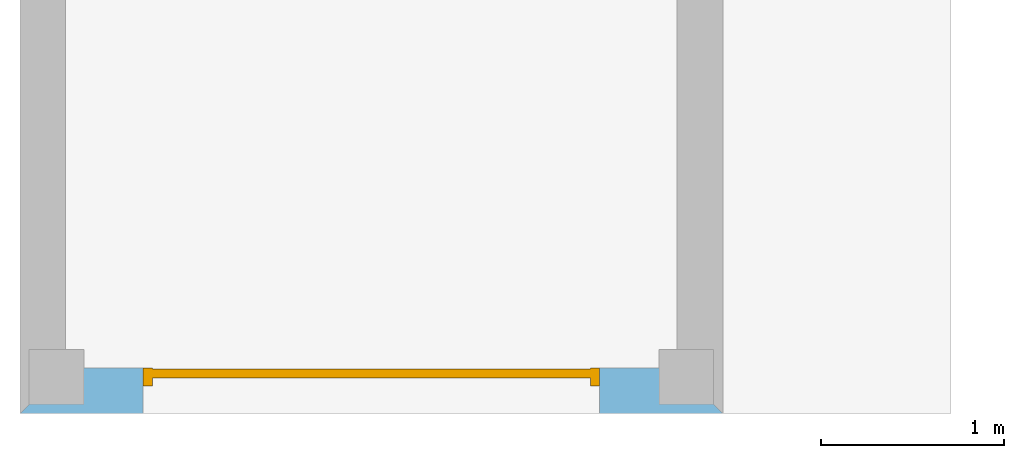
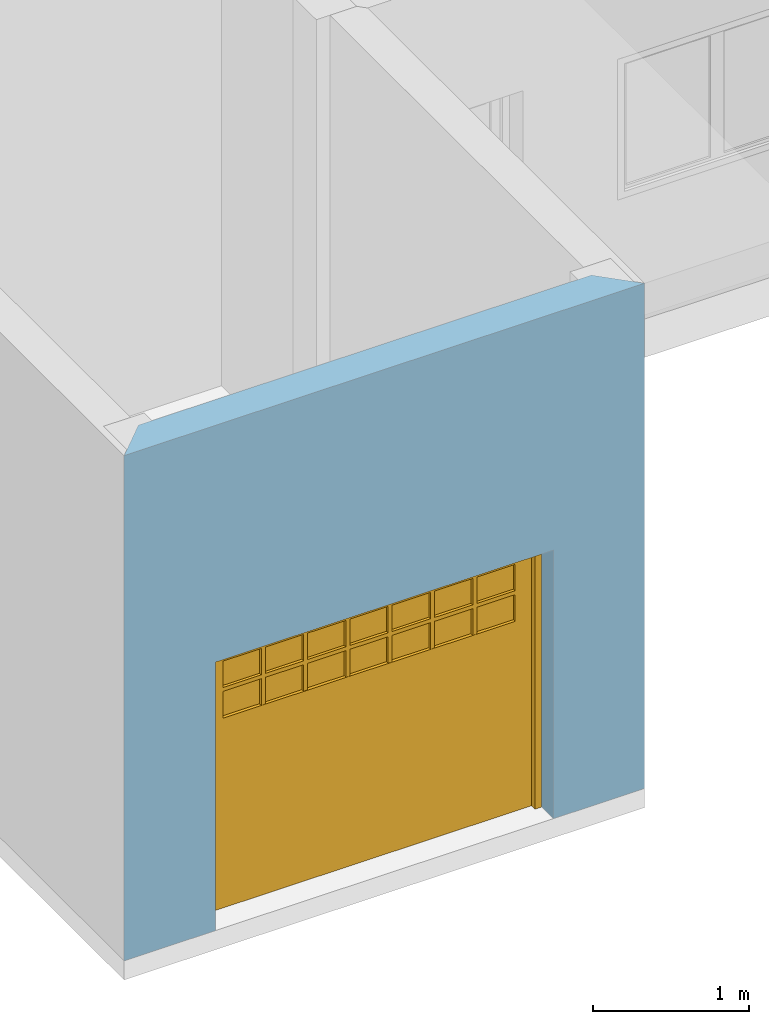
# One storey, part 3 of 5: 1 door, 1 opening, plus 1 element that does not belong to this part.
"""IFC2X3 building model written with IfcOpenShell, lengths in millimetres."""

import ifcopenshell
import ifcopenshell.guid

model = None  # the IFC model being written
_history = None  # IfcOwnerHistory: only IFC2X3 demands one
_inside = {}  # id of a spatial element -> (the spatial element, [elements in it])
_under = {}  # id of a project, library or spatial element -> (it, [spatial elements below it])
_declared = {}  # id of a project -> (the project, [libraries it declares])
_typed = {}  # id of a type object -> (the type object, [elements of that type])
_made_of = {}  # id of a material, layer set ... -> (it, [elements and type objects made of it])


def new_model(schema):
    """Start an empty IFC model of exactly this schema.

    Asked for "IFC4X3", IfcOpenShell would pick the latest addendum, in which some entities
    have other attributes; the version numbers below select the first issue.
    IFC2X3 requires an IfcOwnerHistory on every rooted entity: one is made here for all.
    """
    global model, _history
    if schema == "IFC4X3":
        model = ifcopenshell.file(schema_version=(4, 3, 0, 0))
    else:
        model = ifcopenshell.file(schema=schema)
    _inside.clear()
    _under.clear()
    _declared.clear()
    _typed.clear()
    _made_of.clear()
    _history = None
    if model.schema == "IFC2X3":
        org = make("IfcOrganization", Name="unknown")
        user = make(
            "IfcPersonAndOrganization",
            ThePerson=make("IfcPerson", FamilyName="unknown"),
            TheOrganization=org,
        )
        app = make(
            "IfcApplication",
            ApplicationDeveloper=org,
            Version="unknown",
            ApplicationFullName="unknown",
            ApplicationIdentifier="unknown",
        )
        _history = make(
            "IfcOwnerHistory",
            OwningUser=user,
            OwningApplication=app,
            ChangeAction="ADDED",
            CreationDate=0,
        )
    return model


def make(cls, **values):
    """One entity of the class cls with the attributes given. An attribute that is None is left unset."""
    return model.create_entity(
        cls, **{name: value for name, value in values.items() if value is not None}
    )


def entity(cls, *values):
    """Any entity or typed value of the class cls, its attributes in the order of the schema. None: left unset."""
    e = model.create_entity(cls)
    for i, value in enumerate(values):
        if value is not None:
            e[i] = value
    return e


def rooted(cls, **values):
    """An entity with a GlobalId (a new one), such as an element, a storey or a relation."""
    return make(cls, GlobalId=ifcopenshell.guid.new(), OwnerHistory=_history, **values)


def si_unit(unit_type, name, prefix=None):
    """IfcSIUnit, for example si_unit("LENGTHUNIT", "METRE", prefix="MILLI")."""
    return make("IfcSIUnit", UnitType=unit_type, Prefix=prefix, Name=name)


def converted_unit(unit_type, name, factor, base, dimensions=None, offset=None):
    """IfcConversionBasedUnit, such as the inch: factor (a typed value) times the base unit."""
    return make(
        "IfcConversionBasedUnit"
        if offset is None
        else "IfcConversionBasedUnitWithOffset",
        ConversionOffset=offset,
        Dimensions=None
        if dimensions is None
        else entity("IfcDimensionalExponents", *dimensions),
        UnitType=unit_type,
        Name=name,
        ConversionFactor=make(
            "IfcMeasureWithUnit", ValueComponent=factor, UnitComponent=base
        ),
    )


def assignment(units):
    """IfcUnitAssignment: the units of a project."""
    return None if units is None else make("IfcUnitAssignment", Units=units)


def point(xyz):
    """IfcCartesianPoint."""
    return None if xyz is None else make("IfcCartesianPoint", Coordinates=xyz)


def direction(xyz):
    """IfcDirection."""
    return None if xyz is None else make("IfcDirection", DirectionRatios=xyz)


def frame(location, z_axis=None, x_axis=None):
    """IfcAxis2Placement3D, a coordinate frame: its origin and axes. An axis left out is left unset."""
    return make(
        "IfcAxis2Placement3D",
        Location=point(location),
        Axis=direction(z_axis),
        RefDirection=direction(x_axis),
    )


def frame_2d(location, x_axis=None):
    """IfcAxis2Placement2D, a coordinate frame in the plane: its origin and x axis."""
    return make(
        "IfcAxis2Placement2D", Location=point(location), RefDirection=direction(x_axis)
    )


def origin_with_axes():
    """The frame at (0, 0, 0) with the z axis (0, 0, 1) and the x axis (1, 0, 0) written out."""
    return frame((0.0, 0.0, 0.0), z_axis=(0.0, 0.0, 1.0), x_axis=(1.0, 0.0, 0.0))


def place(relative_to, where):
    """IfcLocalPlacement: puts the frame where relative to a parent placement (None: the world)."""
    return make(
        "IfcLocalPlacement", PlacementRelTo=relative_to, RelativePlacement=where
    )


def context(
    kind, dimensions, precision=None, world=None, true_north=None, identifier=None
):
    """IfcGeometricRepresentationContext, for example the 3D "Model" context."""
    return make(
        "IfcGeometricRepresentationContext",
        ContextIdentifier=identifier,
        ContextType=kind,
        CoordinateSpaceDimension=dimensions,
        Precision=precision,
        WorldCoordinateSystem=world,
        TrueNorth=true_north,
    )


def project(units=None, contexts=None):
    """IfcProject with its units and contexts."""
    return rooted(
        "IfcProject",
        Name="project",
        RepresentationContexts=contexts,
        UnitsInContext=assignment(units),
    )


def spatial(cls, under=None, at=None, **own):
    """A site, building, storey or space (cls), placed at a placement, below another one or the project."""
    s = rooted(cls, ObjectPlacement=at, **own)
    if under is not None:
        _under.setdefault(under.id(), (under, []))[1].append(s)
    return s


def polyline(points):
    """IfcPolyline through the points."""
    return make("IfcPolyline", Points=[point(p) for p in points])


def profile(cls, at=None, kind="AREA", **sizes):
    """A parametric profile (cls). Its sizes go by their IFC names, for example OverallWidth=200.0."""
    return make(cls, ProfileType=kind, Position=at, **sizes)


def rectangle(**sizes):
    """IfcRectangleProfileDef."""
    return profile("IfcRectangleProfileDef", **sizes)


def outline(outer, holes=None, kind="AREA"):
    """IfcArbitraryClosedProfileDef: a profile drawn as a closed curve; with holes, ...WithVoids."""
    if holes is None:
        return make("IfcArbitraryClosedProfileDef", ProfileType=kind, OuterCurve=outer)
    return make(
        "IfcArbitraryProfileDefWithVoids",
        ProfileType=kind,
        OuterCurve=outer,
        InnerCurves=holes,
    )


def extrude(swept, where, along, depth):
    """IfcExtrudedAreaSolid: the profile swept, set in the frame where, extruded along a direction by depth."""
    return make(
        "IfcExtrudedAreaSolid",
        SweptArea=swept,
        Position=where,
        ExtrudedDirection=direction(along),
        Depth=depth,
    )


def faces_of(points, faces, orient=None, outer=None):
    """IfcFace entities. A face is a list of loops; a loop is a list of indices into points, from 0.

    orient and outer hold one flag for each loop. By default every Orientation is true, the
    first loop of a face is its IfcFaceOuterBound and the others are IfcFaceBound.
    """
    made = []
    for i, loops in enumerate(faces):
        bounds = []
        for j, loop in enumerate(loops):
            is_outer = j == 0 if outer is None else outer[i][j]
            bounds.append(
                make(
                    "IfcFaceOuterBound" if is_outer else "IfcFaceBound",
                    Bound=make("IfcPolyLoop", Polygon=[points[k] for k in loop]),
                    Orientation=True if orient is None else orient[i][j],
                )
            )
        made.append(make("IfcFace", Bounds=bounds))
    return made


def faceted_brep(points, faces, orient=None, outer=None, voids=None):
    """IfcFacetedBrep: a solid bounded by flat faces; with voids (closed shells), ...WithVoids."""
    shared = [point(p) for p in points]
    hull = make("IfcClosedShell", CfsFaces=faces_of(shared, faces, orient, outer))
    if voids is None:
        return make("IfcFacetedBrep", Outer=hull)
    return make(
        "IfcFacetedBrepWithVoids",
        Outer=hull,
        Voids=[
            make(cls, CfsFaces=faces_of(shared, fs, o, b)) for cls, fs, o, b in voids
        ],
    )


def shape(context_of_items, identifier, shape_type, items):
    """IfcShapeRepresentation: the items that make up one representation, for example the "Body"."""
    return make(
        "IfcShapeRepresentation",
        ContextOfItems=context_of_items,
        RepresentationIdentifier=identifier,
        RepresentationType=shape_type,
        Items=items,
    )


def material(Name=None, Category=None):
    """IfcMaterial."""
    return make("IfcMaterial", Name=Name, Category=Category)


def layer(
    of_material, thickness, ventilated=None, Name=None, Category=None, Priority=None
):
    """IfcMaterialLayer: one layer of a wall or slab, of a material (None: an air gap)."""
    return make(
        "IfcMaterialLayer",
        Material=of_material,
        LayerThickness=thickness,
        IsVentilated=ventilated,
        Name=Name,
        Category=Category,
        Priority=Priority,
    )


def layer_set(layers, Name=None):
    """IfcMaterialLayerSet."""
    return make("IfcMaterialLayerSet", MaterialLayers=layers, LayerSetName=Name)


def layer_usage(for_layer_set, set_direction, sense, offset, extent=None):
    """IfcMaterialLayerSetUsage: how a layer set lies in its element."""
    return make(
        "IfcMaterialLayerSetUsage",
        ForLayerSet=for_layer_set,
        LayerSetDirection=set_direction,
        DirectionSense=sense,
        OffsetFromReferenceLine=offset,
        ReferenceExtent=extent,
    )


def made_of(thing, what):
    """Note that an element or type object is made of a material, layer set ...; save() writes the relation."""
    if what is not None:
        _made_of.setdefault(what.id(), (what, []))[1].append(thing)
    return thing


def type_object(cls, material=None, **own):
    """A type object (cls), such as IfcWallType, which elements share."""
    return made_of(rooted(cls, **own), material)


def element(
    cls,
    number,
    at=None,
    inside=None,
    cuts=None,
    type_object=None,
    material=None,
    context=None,
    identifier="Body",
    shape_type=None,
    held_by="IfcProductDefinitionShape",
    body=None,
    shapes=None,
    **own,
):
    """One element of the class cls, such as IfcWall. Its Tag is "e" and its number.

    at: its placement. inside: the storey or other place that contains it. cuts: it is an
    opening in that element (IfcRelVoidsElement). A single representation is given by context,
    identifier, shape_type and body (its items); several are given by shapes. held_by: the class
    of the entity that holds the representations. save() writes the other relations.
    """
    e = rooted(cls, Tag="e%d" % number, ObjectPlacement=at, **own)
    if body is not None:
        shapes = [shape(context, identifier, shape_type, body)]
    if shapes is not None:
        e.Representation = make(held_by, Representations=shapes)
    if inside is not None:
        _inside.setdefault(inside.id(), (inside, []))[1].append(e)
    if cuts is not None:
        rooted(
            "IfcRelVoidsElement", RelatingBuildingElement=cuts, RelatedOpeningElement=e
        )
    if type_object is not None:
        _typed.setdefault(type_object.id(), (type_object, []))[1].append(e)
    return made_of(e, material)


def fill(opening, filler):
    """IfcRelFillsElement: the door or window that sits in an opening."""
    return rooted(
        "IfcRelFillsElement",
        RelatingOpeningElement=opening,
        RelatedBuildingElement=filler,
    )


def aggregate(whole, parts):
    """IfcRelAggregates: a whole, such as a stair, and the parts it consists of."""
    return rooted("IfcRelAggregates", RelatingObject=whole, RelatedObjects=parts)


def save(model, path):
    """Write the relations noted so far, then the file.

    IfcRelAggregates (storeys below a building ...), IfcRelContainedInSpatialStructure (elements
    in a storey), IfcRelDefinesByType, IfcRelAssociatesMaterial and IfcRelDeclares: one each for
    every whole, place, type object, material and project.
    """
    for whole, parts in _under.values():
        aggregate(whole, parts)
    for where, things in _inside.values():
        rooted(
            "IfcRelContainedInSpatialStructure",
            RelatedElements=things,
            RelatingStructure=where,
        )
    for kind, things in _typed.values():
        rooted("IfcRelDefinesByType", RelatedObjects=things, RelatingType=kind)
    for what, things in _made_of.values():
        rooted("IfcRelAssociatesMaterial", RelatedObjects=things, RelatingMaterial=what)
    for by, libraries in _declared.values():
        rooted("IfcRelDeclares", RelatingContext=by, RelatedDefinitions=libraries)
    model.write(path)


model = new_model("IFC2X3")

# Units and contexts
context_of_model = context(None, 3, precision=1e-05, world=origin_with_axes(), true_north=direction((6.123234e-17, 1.0)))
plan_context = context("Plan", 3, precision=1e-05, world=origin_with_axes(), true_north=direction((6.123234e-17, 1.0)))
model_context = context("Model", 3, precision=1e-05, world=origin_with_axes(), true_north=direction((6.123234e-17, 1.0)))
ifc_project = project(units=[si_unit("LENGTHUNIT", "METRE", prefix="MILLI"), si_unit("AREAUNIT", "SQUARE_METRE"), si_unit("VOLUMEUNIT", "CUBIC_METRE"), converted_unit("PLANEANGLEUNIT", "DEGREE", entity("IfcPlaneAngleMeasure", 0.017453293), si_unit("PLANEANGLEUNIT", "RADIAN"), dimensions=[0, 0, 0, 0, 0, 0, 0]), si_unit("SOLIDANGLEUNIT", "STERADIAN"), si_unit("MASSUNIT", "GRAM"), si_unit("TIMEUNIT", "SECOND"), si_unit("THERMODYNAMICTEMPERATUREUNIT", "DEGREE_CELSIUS"), si_unit("LUMINOUSINTENSITYUNIT", "LUMEN")], contexts=[context_of_model, plan_context, model_context])

# Site, building, storey
site_placement = place(None, origin_with_axes())
site = spatial("IfcSite", under=ifc_project, at=site_placement, Name="Por defecto Sitio", CompositionType="ELEMENT")
building_placement = place(site_placement, origin_with_axes())
building = spatial("IfcBuilding", under=site, at=building_placement, Name="Por defecto Edificio", CompositionType="ELEMENT")
storey_placement = place(building_placement, origin_with_axes())
storey = spatial("IfcBuildingStorey", under=building, at=storey_placement, Name="Planta Baja", CompositionType="ELEMENT", Elevation=0.0)

# Wall, opening, door
ifc_material = material(Name="Bloque mampostería")
ifc_layer = layer(ifc_material, 250.0, ventilated="UNKNOWN")
ifc_layer_set = layer_set([ifc_layer], Name="Bloque mampostería 250")
ifc_layer_usage = layer_usage(ifc_layer_set, "AXIS2", "NEGATIVE", 0.0)
wall_type = type_object("IfcWallType", Name="Bloque mampostería 250", PredefinedType="NOTDEFINED", material=ifc_layer_set)
wall_placement = place(storey_placement, frame((3650.0, -200.0, -800.0), z_axis=(0.0, 0.0, 1.0), x_axis=(-1.0, 0.0, 0.0)))
wall = element("IfcWallStandardCase", 1, at=wall_placement, inside=storey, type_object=wall_type, material=ifc_layer_usage, Name="Muro-003", context=model_context, shape_type="SweptSolid", body=[
    extrude(outline(polyline([(250.0, -250.0), (3600.0, -250.0), (3850.0, 0.0), (0.0, 0.0), (250.0, -250.0)])), origin_with_axes(), (0.0, 0.0, 1.0), 3950.0),
])
opening_placement = place(wall_placement, frame((1925.0, -250.0, 0.0), z_axis=(0.0, 0.0, 1.0), x_axis=(1.0, 0.0, 0.0)))
opening = element("IfcOpeningElement", 2, at=opening_placement, cuts=wall, ObjectType="Opening", context=model_context, shape_type="SweptSolid", body=[
    extrude(rectangle(XDim=2500.0, YDim=2100.0, at=frame_2d((0.0, 1050.0), x_axis=(-1.0, 0.0))), frame((0.0, 0.0, 0.0), z_axis=(0.0, 1.0, 0.0), x_axis=(-1.0, 0.0, 0.0)), (0.0, 0.0, 1.0), 250.0),
])
door_style = type_object("IfcDoorStyle", Name="P1 Garaje 2 13", ConstructionType="NOTDEFINED", OperationType="ROLLINGUP", ParameterTakesPrecedence=False, Sizeable=False)
door_placement = place(opening_placement, frame((1250.0, 100.0, 0.0), z_axis=(0.0, 0.0, 1.0), x_axis=(-1.0, 0.0, 0.0)))
door = element("IfcDoor", 3, at=door_placement, inside=storey, type_object=door_style, Name="P01", OverallHeight=2100.0, OverallWidth=2500.0, context=model_context, shape_type="Brep", body=[
    faceted_brep([(50.0, 100.0, 0.0), (50.0, 100.0, 2050.0), (50.0, 3.9551695e-13, 2050.0), (50.0, 5.2041704e-13, 0.0), (5.5511151e-14, 100.0, 0.0), (5.5511151e-14, 100.0, 2050.0), (5.5511151e-14, 4.0939474e-13, 2050.0), (0.0, 0.0, 0.0)], [[[0, 1, 2, 3]], [[0, 4, 5, 1]], [[1, 5, 6, 2]], [[3, 2, 6, 7]], [[4, 0, 3, 7]], [[5, 4, 7, 6]]]),
    faceted_brep([(2500.0, 100.0, 0.0), (2500.0, 100.0, 2050.0), (2500.0, -2.0122792e-13, 2050.0), (2500.0, -7.6327833e-14, 0.0), (2450.0, 100.0, 0.0), (2450.0, 100.0, 2050.0), (2450.0, -1.8735014e-13, 2050.0), (2450.0, -6.2450045e-14, 0.0)], [[[0, 1, 2, 3]], [[0, 4, 5, 1]], [[1, 5, 6, 2]], [[3, 2, 6, 7]], [[4, 0, 3, 7]], [[5, 4, 7, 6]]]),
    faceted_brep([(5.5511151e-14, 100.0, 2100.0), (5.5511151e-14, 100.0, 2050.0), (5.5511151e-14, 4.0939474e-13, 2050.0), (5.5511151e-14, 4.0939474e-13, 2100.0), (2500.0, 100.0, 2100.0), (2500.0, 100.0, 2050.0), (2450.0, 100.0, 2050.0), (50.0, 100.0, 2050.0), (50.0, 3.9551695e-13, 2050.0), (2450.0, -1.8735014e-13, 2050.0), (2500.0, -2.0122792e-13, 2050.0), (2500.0, -2.0122792e-13, 2100.0)], [[[0, 1, 2, 3]], [[0, 4, 5, 6, 7, 1]], [[1, 7, 8, 2]], [[3, 2, 8, 9, 10, 11]], [[4, 0, 3, 11]], [[5, 4, 11, 10]], [[6, 5, 10, 9]], [[7, 6, 9, 8]]]),
    faceted_brep([(170.0, 94.5, 0.0), (170.0, 94.5, 1484.0), (170.0, 77.833333, 1484.0), (170.0, 77.833333, 0.0), (50.0, 94.5, 0.0), (50.0, 94.5, 1930.0), (170.0, 94.5, 1930.0), (170.0, 94.5, 1722.0), (170.0, 94.5, 1692.0), (170.0, 77.833333, 1692.0), (170.0, 77.833333, 1722.0), (170.0, 77.833333, 1930.0), (50.0, 77.833333, 1930.0), (50.0, 77.833333, 0.0)], [[[0, 1, 2, 3]], [[0, 4, 5, 6, 7, 8, 1]], [[1, 8, 9, 2]], [[3, 2, 9, 10, 11, 12, 13]], [[4, 0, 3, 13]], [[5, 4, 13, 12]], [[6, 5, 12, 11]], [[7, 6, 11, 10]], [[8, 7, 10, 9]]]),
    faceted_brep([(2450.0, 94.5, 0.0), (2450.0, 94.5, 1930.0), (2450.0, 77.833333, 1930.0), (2450.0, 77.833333, 0.0), (2330.0, 94.5, 0.0), (2330.0, 94.5, 1484.0), (2330.0, 94.5, 1692.0), (2330.0, 94.5, 1722.0), (2330.0, 94.5, 1930.0), (2330.0, 77.833333, 1930.0), (2330.0, 77.833333, 1722.0), (2330.0, 77.833333, 1692.0), (2330.0, 77.833333, 1484.0), (2330.0, 77.833333, 0.0)], [[[0, 1, 2, 3]], [[0, 4, 5, 6, 7, 8, 1]], [[1, 8, 9, 2]], [[3, 2, 9, 10, 11, 12, 13]], [[4, 0, 3, 13]], [[5, 4, 13, 12]], [[6, 5, 12, 11]], [[7, 6, 11, 10]], [[8, 7, 10, 9]]]),
    faceted_brep([(50.0, 94.5, 2050.0), (50.0, 94.5, 1930.0), (50.0, 77.833333, 1930.0), (50.0, 77.833333, 2050.0), (2450.0, 94.5, 2050.0), (2450.0, 94.5, 1930.0), (2330.0, 94.5, 1930.0), (2047.1429, 94.5, 1930.0), (2017.1429, 94.5, 1930.0), (1734.2857, 94.5, 1930.0), (1704.2857, 94.5, 1930.0), (1421.4286, 94.5, 1930.0), (1391.4286, 94.5, 1930.0), (1108.5714, 94.5, 1930.0), (1078.5714, 94.5, 1930.0), (795.71429, 94.5, 1930.0), (765.71429, 94.5, 1930.0), (482.85714, 94.5, 1930.0), (452.85714, 94.5, 1930.0), (170.0, 94.5, 1930.0), (170.0, 77.833333, 1930.0), (452.85714, 77.833333, 1930.0), (482.85714, 77.833333, 1930.0), (765.71429, 77.833333, 1930.0), (795.71429, 77.833333, 1930.0), (1078.5714, 77.833333, 1930.0), (1108.5714, 77.833333, 1930.0), (1391.4286, 77.833333, 1930.0), (1421.4286, 77.833333, 1930.0), (1704.2857, 77.833333, 1930.0), (1734.2857, 77.833333, 1930.0), (2017.1429, 77.833333, 1930.0), (2047.1429, 77.833333, 1930.0), (2330.0, 77.833333, 1930.0), (2450.0, 77.833333, 1930.0), (2450.0, 77.833333, 2050.0)], [[[0, 1, 2, 3]], [[0, 4, 5, 6, 7, 8, 9, 10, 11, 12, 13, 14, 15, 16, 17, 18, 19, 1]], [[1, 19, 20, 2]], [[3, 2, 20, 21, 22, 23, 24, 25, 26, 27, 28, 29, 30, 31, 32, 33, 34, 35]], [[4, 0, 3, 35]], [[5, 4, 35, 34]], [[6, 5, 34, 33]], [[7, 6, 33, 32]], [[8, 7, 32, 31]], [[9, 8, 31, 30]], [[10, 9, 30, 29]], [[11, 10, 29, 28]], [[12, 11, 28, 27]], [[13, 12, 27, 26]], [[14, 13, 26, 25]], [[15, 14, 25, 24]], [[16, 15, 24, 23]], [[17, 16, 23, 22]], [[18, 17, 22, 21]], [[19, 18, 21, 20]]]),
    faceted_brep([(2330.0, 94.5, 1384.0), (2330.0, 94.5, 1484.0), (2330.0, 77.833333, 1484.0), (2330.0, 77.833333, 1384.0), (170.0, 94.5, 1384.0), (170.0, 94.5, 1484.0), (452.85714, 94.5, 1484.0), (482.85714, 94.5, 1484.0), (765.71429, 94.5, 1484.0), (795.71429, 94.5, 1484.0), (1078.5714, 94.5, 1484.0), (1108.5714, 94.5, 1484.0), (1391.4286, 94.5, 1484.0), (1421.4286, 94.5, 1484.0), (1704.2857, 94.5, 1484.0), (1734.2857, 94.5, 1484.0), (2017.1429, 94.5, 1484.0), (2047.1429, 94.5, 1484.0), (2047.1429, 77.833333, 1484.0), (2017.1429, 77.833333, 1484.0), (1734.2857, 77.833333, 1484.0), (1704.2857, 77.833333, 1484.0), (1421.4286, 77.833333, 1484.0), (1391.4286, 77.833333, 1484.0), (1108.5714, 77.833333, 1484.0), (1078.5714, 77.833333, 1484.0), (795.71429, 77.833333, 1484.0), (765.71429, 77.833333, 1484.0), (482.85714, 77.833333, 1484.0), (452.85714, 77.833333, 1484.0), (170.0, 77.833333, 1484.0), (170.0, 77.833333, 1384.0)], [[[0, 1, 2, 3]], [[0, 4, 5, 6, 7, 8, 9, 10, 11, 12, 13, 14, 15, 16, 17, 1]], [[1, 17, 18, 2]], [[3, 2, 18, 19, 20, 21, 22, 23, 24, 25, 26, 27, 28, 29, 30, 31]], [[4, 0, 3, 31]], [[5, 4, 31, 30]], [[6, 5, 30, 29]], [[7, 6, 29, 28]], [[8, 7, 28, 27]], [[9, 8, 27, 26]], [[10, 9, 26, 25]], [[11, 10, 25, 24]], [[12, 11, 24, 23]], [[13, 12, 23, 22]], [[14, 13, 22, 21]], [[15, 14, 21, 20]], [[16, 15, 20, 19]], [[17, 16, 19, 18]]]),
    faceted_brep([(170.0, 94.5, 1692.0), (452.85714, 94.5, 1692.0), (452.85714, 46.5, 1692.0), (170.0, 46.5, 1692.0), (170.0, 94.5, 1722.0), (452.85714, 94.5, 1722.0), (482.85714, 94.5, 1722.0), (765.71429, 94.5, 1722.0), (795.71429, 94.5, 1722.0), (1078.5714, 94.5, 1722.0), (1108.5714, 94.5, 1722.0), (1391.4286, 94.5, 1722.0), (1421.4286, 94.5, 1722.0), (1704.2857, 94.5, 1722.0), (1734.2857, 94.5, 1722.0), (2017.1429, 94.5, 1722.0), (2047.1429, 94.5, 1722.0), (2330.0, 94.5, 1722.0), (2330.0, 94.5, 1692.0), (2047.1429, 94.5, 1692.0), (2017.1429, 94.5, 1692.0), (1734.2857, 94.5, 1692.0), (1704.2857, 94.5, 1692.0), (1421.4286, 94.5, 1692.0), (1391.4286, 94.5, 1692.0), (1108.5714, 94.5, 1692.0), (1078.5714, 94.5, 1692.0), (795.71429, 94.5, 1692.0), (765.71429, 94.5, 1692.0), (482.85714, 94.5, 1692.0), (482.85714, 46.5, 1692.0), (765.71429, 46.5, 1692.0), (795.71429, 46.5, 1692.0), (1078.5714, 46.5, 1692.0), (1108.5714, 46.5, 1692.0), (1391.4286, 46.5, 1692.0), (1421.4286, 46.5, 1692.0), (1704.2857, 46.5, 1692.0), (1734.2857, 46.5, 1692.0), (2017.1429, 46.5, 1692.0), (2047.1429, 46.5, 1692.0), (2330.0, 46.5, 1692.0), (2330.0, 46.5, 1722.0), (2047.1429, 46.5, 1722.0), (2017.1429, 46.5, 1722.0), (1734.2857, 46.5, 1722.0), (1704.2857, 46.5, 1722.0), (1421.4286, 46.5, 1722.0), (1391.4286, 46.5, 1722.0), (1108.5714, 46.5, 1722.0), (1078.5714, 46.5, 1722.0), (795.71429, 46.5, 1722.0), (765.71429, 46.5, 1722.0), (482.85714, 46.5, 1722.0), (452.85714, 46.5, 1722.0), (170.0, 46.5, 1722.0)], [[[0, 1, 2, 3]], [[0, 4, 5, 6, 7, 8, 9, 10, 11, 12, 13, 14, 15, 16, 17, 18, 19, 20, 21, 22, 23, 24, 25, 26, 27, 28, 29, 1]], [[1, 29, 30, 2]], [[3, 2, 30, 31, 32, 33, 34, 35, 36, 37, 38, 39, 40, 41, 42, 43, 44, 45, 46, 47, 48, 49, 50, 51, 52, 53, 54, 55]], [[4, 0, 3, 55]], [[5, 4, 55, 54]], [[6, 5, 54, 53]], [[7, 6, 53, 52]], [[8, 7, 52, 51]], [[9, 8, 51, 50]], [[10, 9, 50, 49]], [[11, 10, 49, 48]], [[12, 11, 48, 47]], [[13, 12, 47, 46]], [[14, 13, 46, 45]], [[15, 14, 45, 44]], [[16, 15, 44, 43]], [[17, 16, 43, 42]], [[18, 17, 42, 41]], [[19, 18, 41, 40]], [[20, 19, 40, 39]], [[21, 20, 39, 38]], [[22, 21, 38, 37]], [[23, 22, 37, 36]], [[24, 23, 36, 35]], [[25, 24, 35, 34]], [[26, 25, 34, 33]], [[27, 26, 33, 32]], [[28, 27, 32, 31]], [[29, 28, 31, 30]]]),
    faceted_brep([(482.85714, 94.5, 1484.0), (482.85714, 94.5, 1692.0), (482.85714, 46.5, 1692.0), (482.85714, 46.5, 1484.0), (452.85714, 94.5, 1484.0), (452.85714, 94.5, 1692.0), (452.85714, 46.5, 1692.0), (452.85714, 46.5, 1484.0)], [[[0, 1, 2, 3]], [[0, 4, 5, 1]], [[1, 5, 6, 2]], [[3, 2, 6, 7]], [[4, 0, 3, 7]], [[5, 4, 7, 6]]]),
    faceted_brep([(482.85714, 94.5, 1722.0), (482.85714, 94.5, 1930.0), (482.85714, 46.5, 1930.0), (482.85714, 46.5, 1722.0), (452.85714, 94.5, 1722.0), (452.85714, 94.5, 1930.0), (452.85714, 46.5, 1930.0), (452.85714, 46.5, 1722.0)], [[[0, 1, 2, 3]], [[0, 4, 5, 1]], [[1, 5, 6, 2]], [[3, 2, 6, 7]], [[4, 0, 3, 7]], [[5, 4, 7, 6]]]),
    faceted_brep([(795.71429, 94.5, 1484.0), (795.71429, 94.5, 1692.0), (795.71429, 46.5, 1692.0), (795.71429, 46.5, 1484.0), (765.71429, 94.5, 1484.0), (765.71429, 94.5, 1692.0), (765.71429, 46.5, 1692.0), (765.71429, 46.5, 1484.0)], [[[0, 1, 2, 3]], [[0, 4, 5, 1]], [[1, 5, 6, 2]], [[3, 2, 6, 7]], [[4, 0, 3, 7]], [[5, 4, 7, 6]]]),
    faceted_brep([(795.71429, 94.5, 1722.0), (795.71429, 94.5, 1930.0), (795.71429, 46.5, 1930.0), (795.71429, 46.5, 1722.0), (765.71429, 94.5, 1722.0), (765.71429, 94.5, 1930.0), (765.71429, 46.5, 1930.0), (765.71429, 46.5, 1722.0)], [[[0, 1, 2, 3]], [[0, 4, 5, 1]], [[1, 5, 6, 2]], [[3, 2, 6, 7]], [[4, 0, 3, 7]], [[5, 4, 7, 6]]]),
    faceted_brep([(1108.5714, 94.5, 1484.0), (1108.5714, 94.5, 1692.0), (1108.5714, 46.5, 1692.0), (1108.5714, 46.5, 1484.0), (1078.5714, 94.5, 1484.0), (1078.5714, 94.5, 1692.0), (1078.5714, 46.5, 1692.0), (1078.5714, 46.5, 1484.0)], [[[0, 1, 2, 3]], [[0, 4, 5, 1]], [[1, 5, 6, 2]], [[3, 2, 6, 7]], [[4, 0, 3, 7]], [[5, 4, 7, 6]]]),
    faceted_brep([(1108.5714, 94.5, 1722.0), (1108.5714, 94.5, 1930.0), (1108.5714, 46.5, 1930.0), (1108.5714, 46.5, 1722.0), (1078.5714, 94.5, 1722.0), (1078.5714, 94.5, 1930.0), (1078.5714, 46.5, 1930.0), (1078.5714, 46.5, 1722.0)], [[[0, 1, 2, 3]], [[0, 4, 5, 1]], [[1, 5, 6, 2]], [[3, 2, 6, 7]], [[4, 0, 3, 7]], [[5, 4, 7, 6]]]),
    faceted_brep([(1421.4286, 94.5, 1484.0), (1421.4286, 94.5, 1692.0), (1421.4286, 46.5, 1692.0), (1421.4286, 46.5, 1484.0), (1391.4286, 94.5, 1484.0), (1391.4286, 94.5, 1692.0), (1391.4286, 46.5, 1692.0), (1391.4286, 46.5, 1484.0)], [[[0, 1, 2, 3]], [[0, 4, 5, 1]], [[1, 5, 6, 2]], [[3, 2, 6, 7]], [[4, 0, 3, 7]], [[5, 4, 7, 6]]]),
    faceted_brep([(1421.4286, 94.5, 1722.0), (1421.4286, 94.5, 1930.0), (1421.4286, 46.5, 1930.0), (1421.4286, 46.5, 1722.0), (1391.4286, 94.5, 1722.0), (1391.4286, 94.5, 1930.0), (1391.4286, 46.5, 1930.0), (1391.4286, 46.5, 1722.0)], [[[0, 1, 2, 3]], [[0, 4, 5, 1]], [[1, 5, 6, 2]], [[3, 2, 6, 7]], [[4, 0, 3, 7]], [[5, 4, 7, 6]]]),
    faceted_brep([(1734.2857, 94.5, 1484.0), (1734.2857, 94.5, 1692.0), (1734.2857, 46.5, 1692.0), (1734.2857, 46.5, 1484.0), (1704.2857, 94.5, 1484.0), (1704.2857, 94.5, 1692.0), (1704.2857, 46.5, 1692.0), (1704.2857, 46.5, 1484.0)], [[[0, 1, 2, 3]], [[0, 4, 5, 1]], [[1, 5, 6, 2]], [[3, 2, 6, 7]], [[4, 0, 3, 7]], [[5, 4, 7, 6]]]),
    faceted_brep([(1734.2857, 94.5, 1722.0), (1734.2857, 94.5, 1930.0), (1734.2857, 46.5, 1930.0), (1734.2857, 46.5, 1722.0), (1704.2857, 94.5, 1722.0), (1704.2857, 94.5, 1930.0), (1704.2857, 46.5, 1930.0), (1704.2857, 46.5, 1722.0)], [[[0, 1, 2, 3]], [[0, 4, 5, 1]], [[1, 5, 6, 2]], [[3, 2, 6, 7]], [[4, 0, 3, 7]], [[5, 4, 7, 6]]]),
    faceted_brep([(2047.1429, 94.5, 1484.0), (2047.1429, 94.5, 1692.0), (2047.1429, 46.5, 1692.0), (2047.1429, 46.5, 1484.0), (2017.1429, 94.5, 1484.0), (2017.1429, 94.5, 1692.0), (2017.1429, 46.5, 1692.0), (2017.1429, 46.5, 1484.0)], [[[0, 1, 2, 3]], [[0, 4, 5, 1]], [[1, 5, 6, 2]], [[3, 2, 6, 7]], [[4, 0, 3, 7]], [[5, 4, 7, 6]]]),
    faceted_brep([(2047.1429, 94.5, 1722.0), (2047.1429, 94.5, 1930.0), (2047.1429, 46.5, 1930.0), (2047.1429, 46.5, 1722.0), (2017.1429, 94.5, 1722.0), (2017.1429, 94.5, 1930.0), (2017.1429, 46.5, 1930.0), (2017.1429, 46.5, 1722.0)], [[[0, 1, 2, 3]], [[0, 4, 5, 1]], [[1, 5, 6, 2]], [[3, 2, 6, 7]], [[4, 0, 3, 7]], [[5, 4, 7, 6]]]),
    faceted_brep([(170.0, 94.5, 0.0), (263.33333, 94.5, 0.0), (263.33333, 77.833333, 0.0), (170.0, 77.833333, 0.0), (170.0, 94.5, 1384.0), (263.33333, 94.5, 1384.0), (263.33333, 77.833333, 1384.0), (170.0, 77.833333, 1384.0)], [[[0, 1, 2, 3]], [[0, 4, 5, 1]], [[1, 5, 6, 2]], [[3, 2, 6, 7]], [[4, 0, 3, 7]], [[5, 4, 7, 6]]]),
    faceted_brep([(273.33333, 94.5, 0.0), (366.66667, 94.5, 0.0), (366.66667, 77.833333, 0.0), (273.33333, 77.833333, 0.0), (273.33333, 94.5, 1384.0), (366.66667, 94.5, 1384.0), (366.66667, 77.833333, 1384.0), (273.33333, 77.833333, 1384.0)], [[[0, 1, 2, 3]], [[0, 4, 5, 1]], [[1, 5, 6, 2]], [[3, 2, 6, 7]], [[4, 0, 3, 7]], [[5, 4, 7, 6]]]),
    faceted_brep([(376.66667, 94.5, 0.0), (470.0, 94.5, 0.0), (470.0, 77.833333, 0.0), (376.66667, 77.833333, 0.0), (376.66667, 94.5, 1384.0), (470.0, 94.5, 1384.0), (470.0, 77.833333, 1384.0), (376.66667, 77.833333, 1384.0)], [[[0, 1, 2, 3]], [[0, 4, 5, 1]], [[1, 5, 6, 2]], [[3, 2, 6, 7]], [[4, 0, 3, 7]], [[5, 4, 7, 6]]]),
    faceted_brep([(480.0, 94.5, 0.0), (573.33333, 94.5, 0.0), (573.33333, 77.833333, 0.0), (480.0, 77.833333, 0.0), (480.0, 94.5, 1384.0), (573.33333, 94.5, 1384.0), (573.33333, 77.833333, 1384.0), (480.0, 77.833333, 1384.0)], [[[0, 1, 2, 3]], [[0, 4, 5, 1]], [[1, 5, 6, 2]], [[3, 2, 6, 7]], [[4, 0, 3, 7]], [[5, 4, 7, 6]]]),
    faceted_brep([(583.33333, 94.5, 0.0), (676.66667, 94.5, 0.0), (676.66667, 77.833333, 0.0), (583.33333, 77.833333, 0.0), (583.33333, 94.5, 1384.0), (676.66667, 94.5, 1384.0), (676.66667, 77.833333, 1384.0), (583.33333, 77.833333, 1384.0)], [[[0, 1, 2, 3]], [[0, 4, 5, 1]], [[1, 5, 6, 2]], [[3, 2, 6, 7]], [[4, 0, 3, 7]], [[5, 4, 7, 6]]]),
    faceted_brep([(686.66667, 94.5, 0.0), (780.0, 94.5, 0.0), (780.0, 77.833333, 0.0), (686.66667, 77.833333, 0.0), (686.66667, 94.5, 1384.0), (780.0, 94.5, 1384.0), (780.0, 77.833333, 1384.0), (686.66667, 77.833333, 1384.0)], [[[0, 1, 2, 3]], [[0, 4, 5, 1]], [[1, 5, 6, 2]], [[3, 2, 6, 7]], [[4, 0, 3, 7]], [[5, 4, 7, 6]]]),
    faceted_brep([(790.0, 94.5, 0.0), (883.33333, 94.5, 0.0), (883.33333, 77.833333, 0.0), (790.0, 77.833333, 0.0), (790.0, 94.5, 1384.0), (883.33333, 94.5, 1384.0), (883.33333, 77.833333, 1384.0), (790.0, 77.833333, 1384.0)], [[[0, 1, 2, 3]], [[0, 4, 5, 1]], [[1, 5, 6, 2]], [[3, 2, 6, 7]], [[4, 0, 3, 7]], [[5, 4, 7, 6]]]),
    faceted_brep([(893.33333, 94.5, 0.0), (986.66667, 94.5, 0.0), (986.66667, 77.833333, 0.0), (893.33333, 77.833333, 0.0), (893.33333, 94.5, 1384.0), (986.66667, 94.5, 1384.0), (986.66667, 77.833333, 1384.0), (893.33333, 77.833333, 1384.0)], [[[0, 1, 2, 3]], [[0, 4, 5, 1]], [[1, 5, 6, 2]], [[3, 2, 6, 7]], [[4, 0, 3, 7]], [[5, 4, 7, 6]]]),
    faceted_brep([(996.66667, 94.5, 0.0), (1090.0, 94.5, 0.0), (1090.0, 77.833333, 0.0), (996.66667, 77.833333, 0.0), (996.66667, 94.5, 1384.0), (1090.0, 94.5, 1384.0), (1090.0, 77.833333, 1384.0), (996.66667, 77.833333, 1384.0)], [[[0, 1, 2, 3]], [[0, 4, 5, 1]], [[1, 5, 6, 2]], [[3, 2, 6, 7]], [[4, 0, 3, 7]], [[5, 4, 7, 6]]]),
    faceted_brep([(1100.0, 94.5, 0.0), (1193.3333, 94.5, 0.0), (1193.3333, 77.833333, 0.0), (1100.0, 77.833333, 0.0), (1100.0, 94.5, 1384.0), (1193.3333, 94.5, 1384.0), (1193.3333, 77.833333, 1384.0), (1100.0, 77.833333, 1384.0)], [[[0, 1, 2, 3]], [[0, 4, 5, 1]], [[1, 5, 6, 2]], [[3, 2, 6, 7]], [[4, 0, 3, 7]], [[5, 4, 7, 6]]]),
    faceted_brep([(1203.3333, 94.5, 0.0), (1296.6667, 94.5, 0.0), (1296.6667, 77.833333, 0.0), (1203.3333, 77.833333, 0.0), (1203.3333, 94.5, 1384.0), (1296.6667, 94.5, 1384.0), (1296.6667, 77.833333, 1384.0), (1203.3333, 77.833333, 1384.0)], [[[0, 1, 2, 3]], [[0, 4, 5, 1]], [[1, 5, 6, 2]], [[3, 2, 6, 7]], [[4, 0, 3, 7]], [[5, 4, 7, 6]]]),
    faceted_brep([(1306.6667, 94.5, 0.0), (1400.0, 94.5, 0.0), (1400.0, 77.833333, 0.0), (1306.6667, 77.833333, 0.0), (1306.6667, 94.5, 1384.0), (1400.0, 94.5, 1384.0), (1400.0, 77.833333, 1384.0), (1306.6667, 77.833333, 1384.0)], [[[0, 1, 2, 3]], [[0, 4, 5, 1]], [[1, 5, 6, 2]], [[3, 2, 6, 7]], [[4, 0, 3, 7]], [[5, 4, 7, 6]]]),
    faceted_brep([(1410.0, 94.5, 0.0), (1503.3333, 94.5, 0.0), (1503.3333, 77.833333, 0.0), (1410.0, 77.833333, 0.0), (1410.0, 94.5, 1384.0), (1503.3333, 94.5, 1384.0), (1503.3333, 77.833333, 1384.0), (1410.0, 77.833333, 1384.0)], [[[0, 1, 2, 3]], [[0, 4, 5, 1]], [[1, 5, 6, 2]], [[3, 2, 6, 7]], [[4, 0, 3, 7]], [[5, 4, 7, 6]]]),
    faceted_brep([(1513.3333, 94.5, 0.0), (1606.6667, 94.5, 0.0), (1606.6667, 77.833333, 0.0), (1513.3333, 77.833333, 0.0), (1513.3333, 94.5, 1384.0), (1606.6667, 94.5, 1384.0), (1606.6667, 77.833333, 1384.0), (1513.3333, 77.833333, 1384.0)], [[[0, 1, 2, 3]], [[0, 4, 5, 1]], [[1, 5, 6, 2]], [[3, 2, 6, 7]], [[4, 0, 3, 7]], [[5, 4, 7, 6]]]),
    faceted_brep([(1616.6667, 94.5, 0.0), (1710.0, 94.5, 0.0), (1710.0, 77.833333, 0.0), (1616.6667, 77.833333, 0.0), (1616.6667, 94.5, 1384.0), (1710.0, 94.5, 1384.0), (1710.0, 77.833333, 1384.0), (1616.6667, 77.833333, 1384.0)], [[[0, 1, 2, 3]], [[0, 4, 5, 1]], [[1, 5, 6, 2]], [[3, 2, 6, 7]], [[4, 0, 3, 7]], [[5, 4, 7, 6]]]),
    faceted_brep([(1720.0, 94.5, 0.0), (1813.3333, 94.5, 0.0), (1813.3333, 77.833333, 0.0), (1720.0, 77.833333, 0.0), (1720.0, 94.5, 1384.0), (1813.3333, 94.5, 1384.0), (1813.3333, 77.833333, 1384.0), (1720.0, 77.833333, 1384.0)], [[[0, 1, 2, 3]], [[0, 4, 5, 1]], [[1, 5, 6, 2]], [[3, 2, 6, 7]], [[4, 0, 3, 7]], [[5, 4, 7, 6]]]),
    faceted_brep([(1823.3333, 94.5, 0.0), (1916.6667, 94.5, 0.0), (1916.6667, 77.833333, 0.0), (1823.3333, 77.833333, 0.0), (1823.3333, 94.5, 1384.0), (1916.6667, 94.5, 1384.0), (1916.6667, 77.833333, 1384.0), (1823.3333, 77.833333, 1384.0)], [[[0, 1, 2, 3]], [[0, 4, 5, 1]], [[1, 5, 6, 2]], [[3, 2, 6, 7]], [[4, 0, 3, 7]], [[5, 4, 7, 6]]]),
    faceted_brep([(1926.6667, 94.5, 0.0), (2020.0, 94.5, 0.0), (2020.0, 77.833333, 0.0), (1926.6667, 77.833333, 0.0), (1926.6667, 94.5, 1384.0), (2020.0, 94.5, 1384.0), (2020.0, 77.833333, 1384.0), (1926.6667, 77.833333, 1384.0)], [[[0, 1, 2, 3]], [[0, 4, 5, 1]], [[1, 5, 6, 2]], [[3, 2, 6, 7]], [[4, 0, 3, 7]], [[5, 4, 7, 6]]]),
    faceted_brep([(2030.0, 94.5, 0.0), (2123.3333, 94.5, 0.0), (2123.3333, 77.833333, 0.0), (2030.0, 77.833333, 0.0), (2030.0, 94.5, 1384.0), (2123.3333, 94.5, 1384.0), (2123.3333, 77.833333, 1384.0), (2030.0, 77.833333, 1384.0)], [[[0, 1, 2, 3]], [[0, 4, 5, 1]], [[1, 5, 6, 2]], [[3, 2, 6, 7]], [[4, 0, 3, 7]], [[5, 4, 7, 6]]]),
    faceted_brep([(2133.3333, 94.5, 0.0), (2226.6667, 94.5, 0.0), (2226.6667, 77.833333, 0.0), (2133.3333, 77.833333, 0.0), (2133.3333, 94.5, 1384.0), (2226.6667, 94.5, 1384.0), (2226.6667, 77.833333, 1384.0), (2133.3333, 77.833333, 1384.0)], [[[0, 1, 2, 3]], [[0, 4, 5, 1]], [[1, 5, 6, 2]], [[3, 2, 6, 7]], [[4, 0, 3, 7]], [[5, 4, 7, 6]]]),
    faceted_brep([(2236.6667, 94.5, 0.0), (2330.0, 94.5, 0.0), (2330.0, 77.833333, 0.0), (2236.6667, 77.833333, 0.0), (2236.6667, 94.5, 1384.0), (2330.0, 94.5, 1384.0), (2330.0, 77.833333, 1384.0), (2236.6667, 77.833333, 1384.0)], [[[0, 1, 2, 3]], [[0, 4, 5, 1]], [[1, 5, 6, 2]], [[3, 2, 6, 7]], [[4, 0, 3, 7]], [[5, 4, 7, 6]]]),
    faceted_brep([(50.0, 77.833333, 0.0), (2450.0, 77.833333, 0.0), (2450.0, 44.5, 0.0), (50.0, 44.5, 0.0), (50.0, 77.833333, 2050.0), (2450.0, 77.833333, 2050.0), (170.0, 77.833333, 1930.0), (170.0, 77.833333, 1484.0), (2330.0, 77.833333, 1484.0), (2330.0, 77.833333, 1930.0), (2450.0, 44.5, 2050.0), (50.0, 44.5, 2050.0), (170.0, 44.5, 1930.0), (2330.0, 44.5, 1930.0), (2330.0, 44.5, 1484.0), (170.0, 44.5, 1484.0)], [[[0, 1, 2, 3]], [[0, 4, 5, 1], [6, 7, 8, 9]], [[1, 5, 10, 2]], [[3, 2, 10, 11], [12, 13, 14, 15]], [[4, 0, 3, 11]], [[5, 4, 11, 10]], [[7, 6, 12, 15]], [[8, 7, 15, 14]], [[9, 8, 14, 13]], [[6, 9, 13, 12]]]),
    faceted_brep([(170.0, 77.833333, 1484.0), (452.85714, 77.833333, 1484.0), (452.85714, 67.833333, 1484.0), (170.0, 67.833333, 1484.0), (170.0, 77.833333, 1692.0), (452.85714, 77.833333, 1692.0), (452.85714, 67.833333, 1692.0), (170.0, 67.833333, 1692.0)], [[[0, 1, 2, 3]], [[0, 4, 5, 1]], [[1, 5, 6, 2]], [[3, 2, 6, 7]], [[4, 0, 3, 7]], [[5, 4, 7, 6]]]),
    faceted_brep([(482.85714, 77.833333, 1484.0), (765.71429, 77.833333, 1484.0), (765.71429, 67.833333, 1484.0), (482.85714, 67.833333, 1484.0), (482.85714, 77.833333, 1692.0), (765.71429, 77.833333, 1692.0), (765.71429, 67.833333, 1692.0), (482.85714, 67.833333, 1692.0)], [[[0, 1, 2, 3]], [[0, 4, 5, 1]], [[1, 5, 6, 2]], [[3, 2, 6, 7]], [[4, 0, 3, 7]], [[5, 4, 7, 6]]]),
    faceted_brep([(795.71429, 77.833333, 1484.0), (1078.5714, 77.833333, 1484.0), (1078.5714, 67.833333, 1484.0), (795.71429, 67.833333, 1484.0), (795.71429, 77.833333, 1692.0), (1078.5714, 77.833333, 1692.0), (1078.5714, 67.833333, 1692.0), (795.71429, 67.833333, 1692.0)], [[[0, 1, 2, 3]], [[0, 4, 5, 1]], [[1, 5, 6, 2]], [[3, 2, 6, 7]], [[4, 0, 3, 7]], [[5, 4, 7, 6]]]),
    faceted_brep([(1108.5714, 77.833333, 1484.0), (1391.4286, 77.833333, 1484.0), (1391.4286, 67.833333, 1484.0), (1108.5714, 67.833333, 1484.0), (1108.5714, 77.833333, 1692.0), (1391.4286, 77.833333, 1692.0), (1391.4286, 67.833333, 1692.0), (1108.5714, 67.833333, 1692.0)], [[[0, 1, 2, 3]], [[0, 4, 5, 1]], [[1, 5, 6, 2]], [[3, 2, 6, 7]], [[4, 0, 3, 7]], [[5, 4, 7, 6]]]),
    faceted_brep([(1421.4286, 77.833333, 1484.0), (1704.2857, 77.833333, 1484.0), (1704.2857, 67.833333, 1484.0), (1421.4286, 67.833333, 1484.0), (1421.4286, 77.833333, 1692.0), (1704.2857, 77.833333, 1692.0), (1704.2857, 67.833333, 1692.0), (1421.4286, 67.833333, 1692.0)], [[[0, 1, 2, 3]], [[0, 4, 5, 1]], [[1, 5, 6, 2]], [[3, 2, 6, 7]], [[4, 0, 3, 7]], [[5, 4, 7, 6]]]),
    faceted_brep([(1734.2857, 77.833333, 1484.0), (2017.1429, 77.833333, 1484.0), (2017.1429, 67.833333, 1484.0), (1734.2857, 67.833333, 1484.0), (1734.2857, 77.833333, 1692.0), (2017.1429, 77.833333, 1692.0), (2017.1429, 67.833333, 1692.0), (1734.2857, 67.833333, 1692.0)], [[[0, 1, 2, 3]], [[0, 4, 5, 1]], [[1, 5, 6, 2]], [[3, 2, 6, 7]], [[4, 0, 3, 7]], [[5, 4, 7, 6]]]),
    faceted_brep([(2047.1429, 77.833333, 1484.0), (2330.0, 77.833333, 1484.0), (2330.0, 67.833333, 1484.0), (2047.1429, 67.833333, 1484.0), (2047.1429, 77.833333, 1692.0), (2330.0, 77.833333, 1692.0), (2330.0, 67.833333, 1692.0), (2047.1429, 67.833333, 1692.0)], [[[0, 1, 2, 3]], [[0, 4, 5, 1]], [[1, 5, 6, 2]], [[3, 2, 6, 7]], [[4, 0, 3, 7]], [[5, 4, 7, 6]]]),
    faceted_brep([(170.0, 77.833333, 1722.0), (452.85714, 77.833333, 1722.0), (452.85714, 67.833333, 1722.0), (170.0, 67.833333, 1722.0), (170.0, 77.833333, 1930.0), (452.85714, 77.833333, 1930.0), (452.85714, 67.833333, 1930.0), (170.0, 67.833333, 1930.0)], [[[0, 1, 2, 3]], [[0, 4, 5, 1]], [[1, 5, 6, 2]], [[3, 2, 6, 7]], [[4, 0, 3, 7]], [[5, 4, 7, 6]]]),
    faceted_brep([(482.85714, 77.833333, 1722.0), (765.71429, 77.833333, 1722.0), (765.71429, 67.833333, 1722.0), (482.85714, 67.833333, 1722.0), (482.85714, 77.833333, 1930.0), (765.71429, 77.833333, 1930.0), (765.71429, 67.833333, 1930.0), (482.85714, 67.833333, 1930.0)], [[[0, 1, 2, 3]], [[0, 4, 5, 1]], [[1, 5, 6, 2]], [[3, 2, 6, 7]], [[4, 0, 3, 7]], [[5, 4, 7, 6]]]),
    faceted_brep([(795.71429, 77.833333, 1722.0), (1078.5714, 77.833333, 1722.0), (1078.5714, 67.833333, 1722.0), (795.71429, 67.833333, 1722.0), (795.71429, 77.833333, 1930.0), (1078.5714, 77.833333, 1930.0), (1078.5714, 67.833333, 1930.0), (795.71429, 67.833333, 1930.0)], [[[0, 1, 2, 3]], [[0, 4, 5, 1]], [[1, 5, 6, 2]], [[3, 2, 6, 7]], [[4, 0, 3, 7]], [[5, 4, 7, 6]]]),
    faceted_brep([(1108.5714, 77.833333, 1722.0), (1391.4286, 77.833333, 1722.0), (1391.4286, 67.833333, 1722.0), (1108.5714, 67.833333, 1722.0), (1108.5714, 77.833333, 1930.0), (1391.4286, 77.833333, 1930.0), (1391.4286, 67.833333, 1930.0), (1108.5714, 67.833333, 1930.0)], [[[0, 1, 2, 3]], [[0, 4, 5, 1]], [[1, 5, 6, 2]], [[3, 2, 6, 7]], [[4, 0, 3, 7]], [[5, 4, 7, 6]]]),
    faceted_brep([(1421.4286, 77.833333, 1722.0), (1704.2857, 77.833333, 1722.0), (1704.2857, 67.833333, 1722.0), (1421.4286, 67.833333, 1722.0), (1421.4286, 77.833333, 1930.0), (1704.2857, 77.833333, 1930.0), (1704.2857, 67.833333, 1930.0), (1421.4286, 67.833333, 1930.0)], [[[0, 1, 2, 3]], [[0, 4, 5, 1]], [[1, 5, 6, 2]], [[3, 2, 6, 7]], [[4, 0, 3, 7]], [[5, 4, 7, 6]]]),
    faceted_brep([(1734.2857, 77.833333, 1722.0), (2017.1429, 77.833333, 1722.0), (2017.1429, 67.833333, 1722.0), (1734.2857, 67.833333, 1722.0), (1734.2857, 77.833333, 1930.0), (2017.1429, 77.833333, 1930.0), (2017.1429, 67.833333, 1930.0), (1734.2857, 67.833333, 1930.0)], [[[0, 1, 2, 3]], [[0, 4, 5, 1]], [[1, 5, 6, 2]], [[3, 2, 6, 7]], [[4, 0, 3, 7]], [[5, 4, 7, 6]]]),
    faceted_brep([(2047.1429, 77.833333, 1722.0), (2330.0, 77.833333, 1722.0), (2330.0, 67.833333, 1722.0), (2047.1429, 67.833333, 1722.0), (2047.1429, 77.833333, 1930.0), (2330.0, 77.833333, 1930.0), (2330.0, 67.833333, 1930.0), (2047.1429, 67.833333, 1930.0)], [[[0, 1, 2, 3]], [[0, 4, 5, 1]], [[1, 5, 6, 2]], [[3, 2, 6, 7]], [[4, 0, 3, 7]], [[5, 4, 7, 6]]]),
])
fill(opening, door)

save(model, "model.ifc")
